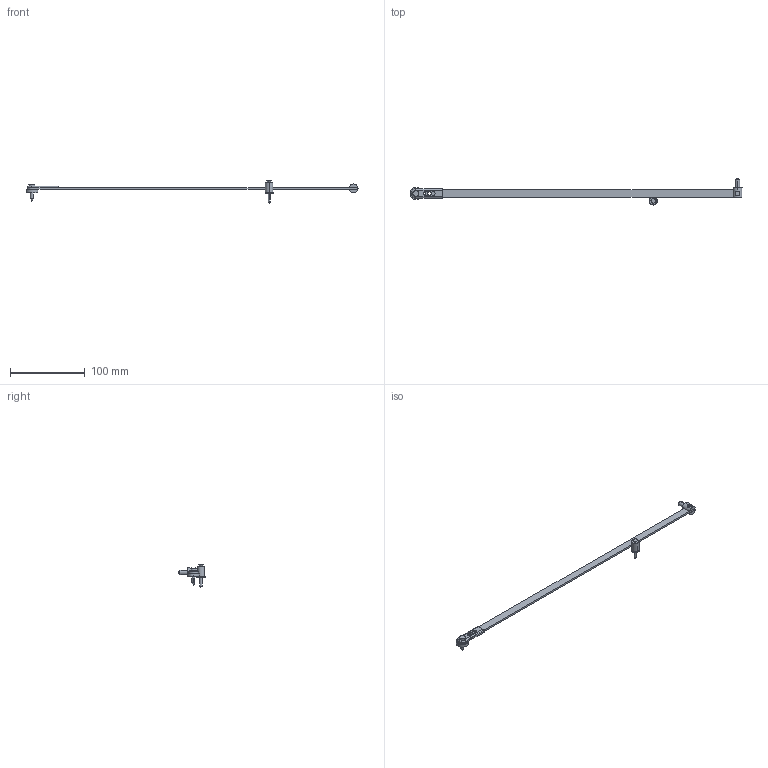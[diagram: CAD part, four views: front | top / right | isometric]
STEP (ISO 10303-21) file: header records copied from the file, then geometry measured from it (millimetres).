
FILE_DESCRIPTION( ( '' ), '1' );
FILE_NAME( 'D:/temp/hettich_stp/hettich/4_folding_sliding/4.4_folding_door/x_kg_wing_line_170_26/wing_line_170/74658.stp', '2013-02-26T10:19:55', ( '' ), ( '' ), ' ', ' ', ' ' );
FILE_SCHEMA( ( 'automotive_design' ) );
Length unit declared in the file: millimetre
Products named in the file (3): 1; 2; 3
Bounding box: 445 x 35 x 30 mm (x, y, z)
Volume: 15267.5 mm3; surface area: 14973.4 mm2
Topology: 3 solids, 3 shells, 104 faces, 261 edges, 169 vertices
Faces by surface type: cylinder 54, plane 38, cone 8, torus 4
Entity records: 6452 total; most frequent: CARTESIAN_POINT 801, DIRECTION 602, STYLED_ITEM 533, PRESENTATION_STYLE_ASSIGNMENT 533, COLOUR_RGB 533, ORIENTED_EDGE 514, EDGE_CURVE 257, CURVE_STYLE 257
